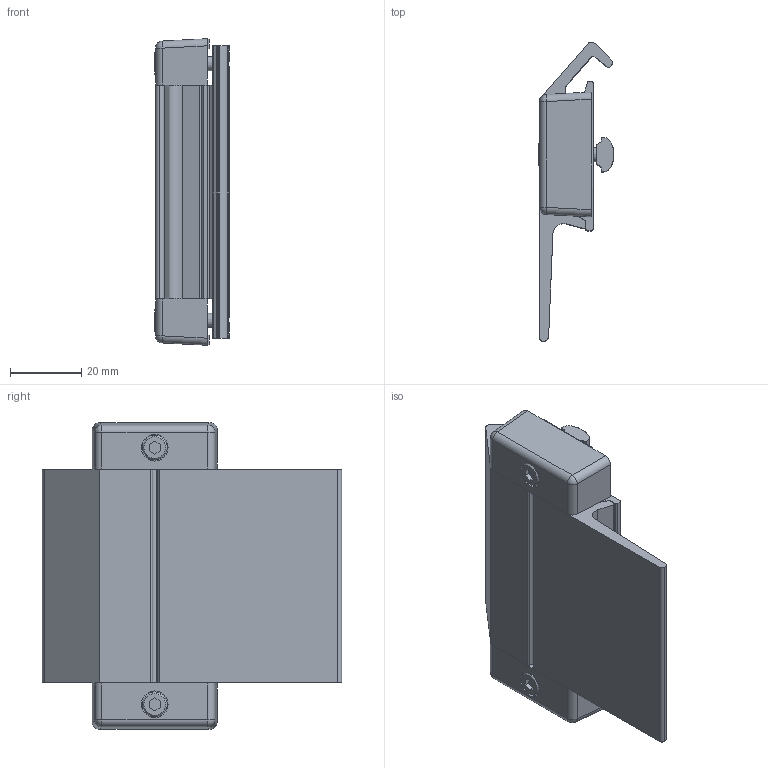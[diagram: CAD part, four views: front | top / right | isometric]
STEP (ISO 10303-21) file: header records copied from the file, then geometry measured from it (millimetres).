
FILE_DESCRIPTION(('STEP AP214'),'1');
FILE_NAME('LA25-L60.stp','2016-11-30T10:29:21',(' '),(' '),'Spatial InterOp 3D',' ',' ');
FILE_SCHEMA(('automotive_design'));
Length unit declared in the file: millimetre
Products named in the file (9): LA25-L60; LA25-L60C; LA25L60B; LA25-L60A; ねじ: 穴付き - M4.0 x 16.0; NFM4-P42; L25D
Assembly tree (8 placements, depth 2):
  LA25-L60
    LA25-L60C
    LA25L60B
    LA25-L60A
    ねじ: 穴付き - M4.0 x 16.0
    ねじ: 穴付き - M4.0 x 16.0
    NFM4-P42
    L25D
    L25D
Bounding box: 20.94 x 83.89 x 86 mm (x, y, z)
Volume: 44063.8 mm3; surface area: 31632.2 mm2
Topology: 8 solids, 8 shells, 224 faces, 584 edges, 380 vertices
Faces by surface type: plane 132, cylinder 84, cone 4, sphere 4
Full cylindrical faces by diameter (mm): 4 x4, 4.5 x2, 6.9 x2, 7.5 x2
Entity records: 8768 total; most frequent: CARTESIAN_POINT 1215, DIRECTION 1192, ORIENTED_EDGE 1128, EDGE_CURVE 564, AXIS2_PLACEMENT_3D 403, LINE 386, VECTOR 386, VERTEX_POINT 378
